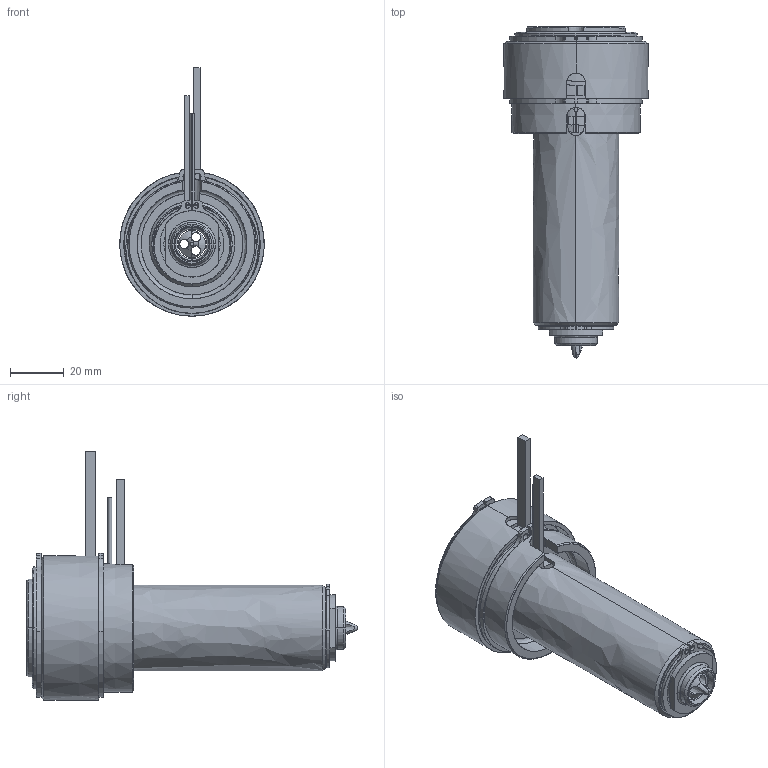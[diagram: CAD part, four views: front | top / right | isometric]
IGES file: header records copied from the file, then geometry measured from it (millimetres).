
Start section: SolidWorks IGES file using analytic representation for surfaces
Global section: file name: C:\Documents and Settings\ws-20\Desktop\TEM\UGEP5502-M-A-1 [Øf-1.36 ØC-13].IGS; native system: SolidWorks 2012; preprocessor: SolidWorks 2012; author: ws-20; date: 120427.081455; units: millimetre
Bounding box: 54 x 124.05 x 92.8 mm (x, y, z)
Surface area: 57321.1 mm2 (no closed solid volume)
Topology: 0 solids, 0 shells, 183 faces, 3616 edges, 3616 vertices
Faces by surface type: revolution 118, bspline 65
